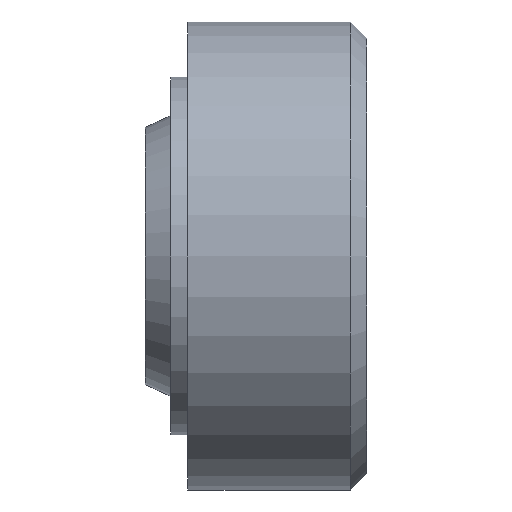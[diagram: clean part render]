
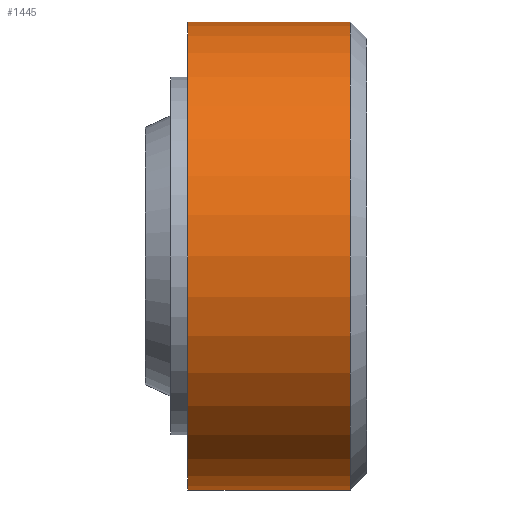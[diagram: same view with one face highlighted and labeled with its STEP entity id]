
A CAD part, left-side view. The second image highlights one B-rep face of the part: STEP entity #1445.
In plain terms, the highlighted cylindrical face has radius 6.985 mm (diameter 13.97 mm), a partial arc.
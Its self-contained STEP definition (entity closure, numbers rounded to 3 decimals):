
#102 = PLANE('',#103);
#103 = AXIS2_PLACEMENT_3D('',#104,#105,#106);
#104 = CARTESIAN_POINT('',(0.,-5.461,-5.334));
#105 = DIRECTION('',(0.,1.,0.));
#106 = DIRECTION('',(0.,0.,1.));
#141 = VERTEX_POINT('',#142);
#142 = CARTESIAN_POINT('',(0.,-5.461,-6.985));
#143 = VERTEX_POINT('',#144);
#144 = CARTESIAN_POINT('',(0.,-5.461,6.985));
#152 = CYLINDRICAL_SURFACE('',#153,6.985);
#153 = AXIS2_PLACEMENT_3D('',#154,#155,#156);
#154 = CARTESIAN_POINT('',(0.,-11.474,0.));
#155 = DIRECTION('',(0.,-1.,0.));
#156 = DIRECTION('',(0.,0.,-1.));
#174 = EDGE_CURVE('',#143,#175,#177,.T.);
#175 = VERTEX_POINT('',#176);
#176 = CARTESIAN_POINT('',(0.,-10.307,6.985));
#177 = SURFACE_CURVE('',#178,(#182,#188),.PCURVE_S1.);
#178 = LINE('',#179,#180);
#179 = CARTESIAN_POINT('',(0.,-11.474,6.985));
#180 = VECTOR('',#181,1.);
#181 = DIRECTION('',(0.,-1.,0.));
#182 = PCURVE('',#152,#183);
#183 = DEFINITIONAL_REPRESENTATION('',(#184),#187);
#184 = B_SPLINE_CURVE_WITH_KNOTS('',1,(#185,#186),.UNSPECIFIED.,.F.,.F.,
  (2,2),(-6.013,-1.168),.PIECEWISE_BEZIER_KNOTS.);
#185 = CARTESIAN_POINT('',(3.142,-6.013));
#186 = CARTESIAN_POINT('',(3.142,-1.168));
#187 = ( GEOMETRIC_REPRESENTATION_CONTEXT(2) 
PARAMETRIC_REPRESENTATION_CONTEXT() REPRESENTATION_CONTEXT('2D SPACE',''
  ) );
#188 = PCURVE('',#189,#194);
#189 = CYLINDRICAL_SURFACE('',#190,6.985);
#190 = AXIS2_PLACEMENT_3D('',#191,#192,#193);
#191 = CARTESIAN_POINT('',(0.,-11.474,0.));
#192 = DIRECTION('',(0.,-1.,0.));
#193 = DIRECTION('',(0.,0.,-1.));
#194 = DEFINITIONAL_REPRESENTATION('',(#195),#198);
#195 = B_SPLINE_CURVE_WITH_KNOTS('',1,(#196,#197),.UNSPECIFIED.,.F.,.F.,
  (2,2),(-6.013,-1.168),.PIECEWISE_BEZIER_KNOTS.);
#196 = CARTESIAN_POINT('',(3.142,-6.013));
#197 = CARTESIAN_POINT('',(3.142,-1.168));
#198 = ( GEOMETRIC_REPRESENTATION_CONTEXT(2) 
PARAMETRIC_REPRESENTATION_CONTEXT() REPRESENTATION_CONTEXT('2D SPACE',''
  ) );
#201 = VERTEX_POINT('',#202);
#202 = CARTESIAN_POINT('',(0.,-10.307,-6.985));
#250 = EDGE_CURVE('',#141,#201,#251,.T.);
#251 = SURFACE_CURVE('',#252,(#256,#262),.PCURVE_S1.);
#252 = LINE('',#253,#254);
#253 = CARTESIAN_POINT('',(0.,-11.474,-6.985));
#254 = VECTOR('',#255,1.);
#255 = DIRECTION('',(0.,-1.,0.));
#256 = PCURVE('',#152,#257);
#257 = DEFINITIONAL_REPRESENTATION('',(#258),#261);
#258 = B_SPLINE_CURVE_WITH_KNOTS('',1,(#259,#260),.UNSPECIFIED.,.F.,.F.,
  (2,2),(-6.013,-1.168),.PIECEWISE_BEZIER_KNOTS.);
#259 = CARTESIAN_POINT('',(0.,-6.013));
#260 = CARTESIAN_POINT('',(0.,-1.168));
#261 = ( GEOMETRIC_REPRESENTATION_CONTEXT(2) 
PARAMETRIC_REPRESENTATION_CONTEXT() REPRESENTATION_CONTEXT('2D SPACE',''
  ) );
#262 = PCURVE('',#189,#263);
#263 = DEFINITIONAL_REPRESENTATION('',(#264),#267);
#264 = B_SPLINE_CURVE_WITH_KNOTS('',1,(#265,#266),.UNSPECIFIED.,.F.,.F.,
  (2,2),(-6.013,-1.168),.PIECEWISE_BEZIER_KNOTS.);
#265 = CARTESIAN_POINT('',(6.283,-6.013));
#266 = CARTESIAN_POINT('',(6.283,-1.168));
#267 = ( GEOMETRIC_REPRESENTATION_CONTEXT(2) 
PARAMETRIC_REPRESENTATION_CONTEXT() REPRESENTATION_CONTEXT('2D SPACE',''
  ) );
#338 = CONICAL_SURFACE('',#339,6.497,0.785);
#339 = AXIS2_PLACEMENT_3D('',#340,#341,#342);
#340 = CARTESIAN_POINT('',(0.,-10.795,0.));
#341 = DIRECTION('',(0.,1.,0.));
#342 = DIRECTION('',(0.,0.,1.));
#1403 = EDGE_CURVE('',#175,#201,#1404,.T.);
#1404 = SURFACE_CURVE('',#1405,(#1410,#1439),.PCURVE_S1.);
#1405 = CIRCLE('',#1406,6.985);
#1406 = AXIS2_PLACEMENT_3D('',#1407,#1408,#1409);
#1407 = CARTESIAN_POINT('',(0.,-10.307,0.));
#1408 = DIRECTION('',(0.,-1.,0.));
#1409 = DIRECTION('',(0.,0.,-1.));
#1410 = PCURVE('',#338,#1411);
#1411 = DEFINITIONAL_REPRESENTATION('',(#1412),#1438);
#1412 = B_SPLINE_CURVE_WITH_KNOTS('',3,(#1413,#1414,#1415,#1416,#1417,
    #1418,#1419,#1420,#1421,#1422,#1423,#1424,#1425,#1426,#1427,#1428,
    #1429,#1430,#1431,#1432,#1433,#1434,#1435,#1436,#1437),
  .UNSPECIFIED.,.F.,.F.,(4,1,1,1,1,1,1,1,1,1,1,1,1,1,1,1,1,1,1,1,1,1,4),
  (3.142,3.284,3.427,3.57,
    3.713,3.856,3.998,4.141,
    4.284,4.427,4.57,4.712,
    4.855,4.998,5.141,5.284,
    5.426,5.569,5.712,5.855,
    5.998,6.14,6.283),.QUASI_UNIFORM_KNOTS.);
#1413 = CARTESIAN_POINT('',(6.283,0.488));
#1414 = CARTESIAN_POINT('',(6.236,0.488));
#1415 = CARTESIAN_POINT('',(6.14,0.488));
#1416 = CARTESIAN_POINT('',(5.998,0.488));
#1417 = CARTESIAN_POINT('',(5.855,0.488));
#1418 = CARTESIAN_POINT('',(5.712,0.488));
#1419 = CARTESIAN_POINT('',(5.569,0.488));
#1420 = CARTESIAN_POINT('',(5.426,0.488));
#1421 = CARTESIAN_POINT('',(5.284,0.488));
#1422 = CARTESIAN_POINT('',(5.141,0.488));
#1423 = CARTESIAN_POINT('',(4.998,0.488));
#1424 = CARTESIAN_POINT('',(4.855,0.488));
#1425 = CARTESIAN_POINT('',(4.712,0.488));
#1426 = CARTESIAN_POINT('',(4.57,0.488));
#1427 = CARTESIAN_POINT('',(4.427,0.488));
#1428 = CARTESIAN_POINT('',(4.284,0.488));
#1429 = CARTESIAN_POINT('',(4.141,0.488));
#1430 = CARTESIAN_POINT('',(3.998,0.488));
#1431 = CARTESIAN_POINT('',(3.856,0.488));
#1432 = CARTESIAN_POINT('',(3.713,0.488));
#1433 = CARTESIAN_POINT('',(3.57,0.488));
#1434 = CARTESIAN_POINT('',(3.427,0.488));
#1435 = CARTESIAN_POINT('',(3.284,0.488));
#1436 = CARTESIAN_POINT('',(3.189,0.488));
#1437 = CARTESIAN_POINT('',(3.142,0.488));
#1438 = ( GEOMETRIC_REPRESENTATION_CONTEXT(2) 
PARAMETRIC_REPRESENTATION_CONTEXT() REPRESENTATION_CONTEXT('2D SPACE',''
  ) );
#1439 = PCURVE('',#189,#1440);
#1440 = DEFINITIONAL_REPRESENTATION('',(#1441),#1444);
#1441 = B_SPLINE_CURVE_WITH_KNOTS('',1,(#1442,#1443),.UNSPECIFIED.,.F.,
  .F.,(2,2),(3.142,6.283),.PIECEWISE_BEZIER_KNOTS.);
#1442 = CARTESIAN_POINT('',(3.142,-1.168));
#1443 = CARTESIAN_POINT('',(6.283,-1.168));
#1444 = ( GEOMETRIC_REPRESENTATION_CONTEXT(2) 
PARAMETRIC_REPRESENTATION_CONTEXT() REPRESENTATION_CONTEXT('2D SPACE',''
  ) );
#1445 = ADVANCED_FACE('',(#1446),#189,.T.);
#1446 = FACE_BOUND('',#1447,.T.);
#1447 = EDGE_LOOP('',(#1448,#1449,#1474,#1475));
#1448 = ORIENTED_EDGE('',*,*,#174,.F.);
#1449 = ORIENTED_EDGE('',*,*,#1450,.T.);
#1450 = EDGE_CURVE('',#143,#141,#1451,.T.);
#1451 = SURFACE_CURVE('',#1452,(#1457,#1463),.PCURVE_S1.);
#1452 = CIRCLE('',#1453,6.985);
#1453 = AXIS2_PLACEMENT_3D('',#1454,#1455,#1456);
#1454 = CARTESIAN_POINT('',(0.,-5.461,0.));
#1455 = DIRECTION('',(0.,-1.,0.));
#1456 = DIRECTION('',(0.,0.,-1.));
#1457 = PCURVE('',#189,#1458);
#1458 = DEFINITIONAL_REPRESENTATION('',(#1459),#1462);
#1459 = B_SPLINE_CURVE_WITH_KNOTS('',1,(#1460,#1461),.UNSPECIFIED.,.F.,
  .F.,(2,2),(3.142,6.283),.PIECEWISE_BEZIER_KNOTS.);
#1460 = CARTESIAN_POINT('',(3.142,-6.013));
#1461 = CARTESIAN_POINT('',(6.283,-6.013));
#1462 = ( GEOMETRIC_REPRESENTATION_CONTEXT(2) 
PARAMETRIC_REPRESENTATION_CONTEXT() REPRESENTATION_CONTEXT('2D SPACE',''
  ) );
#1463 = PCURVE('',#102,#1464);
#1464 = DEFINITIONAL_REPRESENTATION('',(#1465),#1473);
#1465 = ( BOUNDED_CURVE() B_SPLINE_CURVE(2,(#1466,#1467,#1468,#1469,
#1470,#1471,#1472),.UNSPECIFIED.,.F.,.F.) B_SPLINE_CURVE_WITH_KNOTS((1,2
    ,2,2,2,1),(-2.094,0.,2.094,4.189,
6.283,8.378),.UNSPECIFIED.) CURVE() 
GEOMETRIC_REPRESENTATION_ITEM() RATIONAL_B_SPLINE_CURVE((1.,0.5,1.,0.5,
1.,0.5,1.)) REPRESENTATION_ITEM('') );
#1466 = CARTESIAN_POINT('',(-1.651,0.));
#1467 = CARTESIAN_POINT('',(-1.651,12.098));
#1468 = CARTESIAN_POINT('',(8.827,6.049));
#1469 = CARTESIAN_POINT('',(19.304,0.));
#1470 = CARTESIAN_POINT('',(8.827,-6.049));
#1471 = CARTESIAN_POINT('',(-1.651,-12.098));
#1472 = CARTESIAN_POINT('',(-1.651,0.));
#1473 = ( GEOMETRIC_REPRESENTATION_CONTEXT(2) 
PARAMETRIC_REPRESENTATION_CONTEXT() REPRESENTATION_CONTEXT('2D SPACE',''
  ) );
#1474 = ORIENTED_EDGE('',*,*,#250,.T.);
#1475 = ORIENTED_EDGE('',*,*,#1403,.F.);
